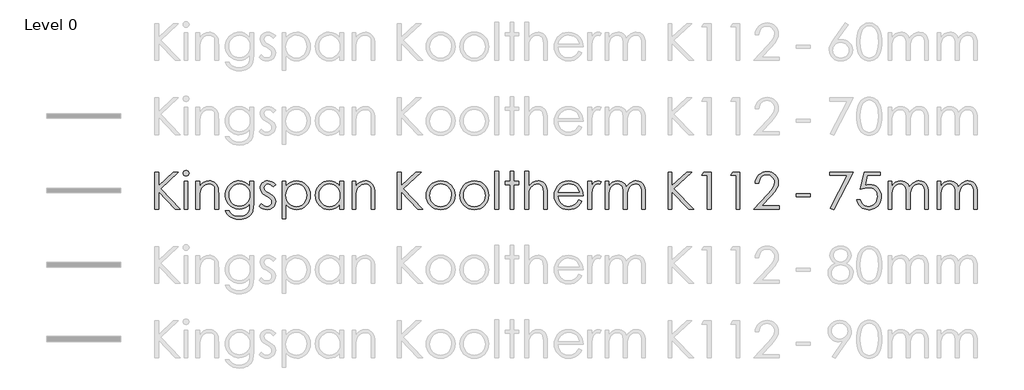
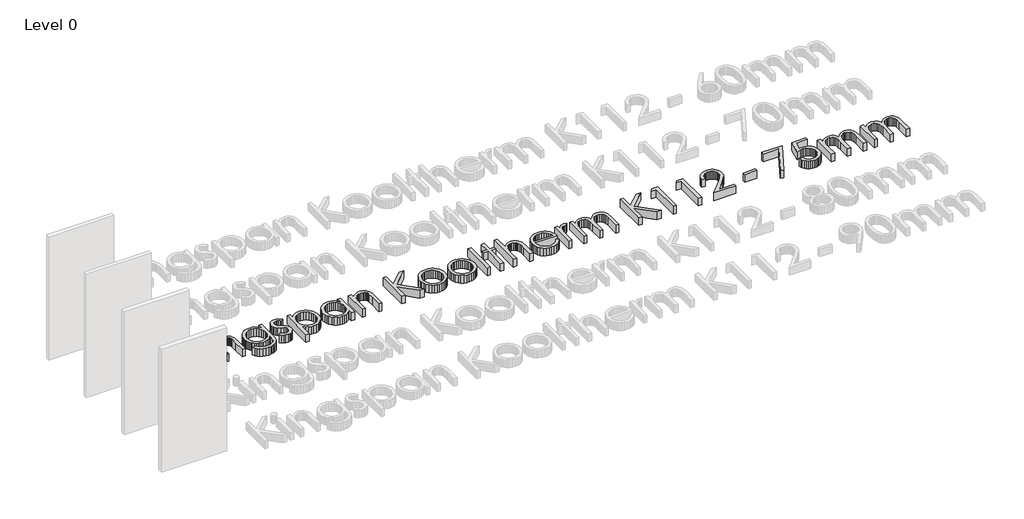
# One storey, part 9 of 14: 1 proxy.
"""IFC4 building model written with IfcOpenShell, lengths in millimetres."""

from ifc_helpers import new_model, si_unit, origin, origin_with_axes, place, context, project, spatial, polyline, outline, extrude, element, save

model = new_model("IFC4")

# Units and contexts
model_context = context("Model", 3, world=origin())
ifc_project = project(units=[si_unit("LENGTHUNIT", "METRE", prefix="MILLI")], contexts=[model_context])

# Site, building, storey
site = spatial("IfcSite", under=ifc_project)
building = spatial("IfcBuilding", under=site)
storey = spatial("IfcBuildingStorey", under=building, Name="Level 0", Elevation=0.0)

# Proxy
placement = place(None, origin())
element("IfcBuildingElementProxy", 1, Name="600mm KI_CenturyGothic", ObjectType="600mm KI_CenturyGothic", at=placement, inside=storey, context=model_context, shape_type="SweptSolid", body=[
    extrude(outline(polyline([(-3852.2663848, -99.1034017), (-3792.944575, -99.1034017), (-3792.944575, -318.316027), (-3555.1938841, -99.1034017), (-3471.6181051, -99.1034017), (-3760.9664119, -366.0515459), (-3441.9572002, -692.3214999), (-3520.8984627, -692.3214999), (-3792.944575, -414.0960325), (-3792.944575, -692.3214999), (-3852.2663848, -692.3214999), (-3852.2663848, -99.1034017)])), origin_with_axes(), (0.0, 0.0, 1.0), 150.0),
    extrude(outline(polyline([(-3348.1854852, -69.4424967), (-3329.145347, -72.7252792), (-3313.1176445, -82.5736265), (-3302.226531, -97.0178693), (-3298.5961598, -114.088338), (-3302.226531, -130.9270809), (-3313.1176445, -145.2940817), (-3329.145347, -155.142429), (-3348.1854852, -158.4252115), (-3366.9938975, -155.142429), (-3382.9443581, -145.2940817), (-3393.8354717, -130.9270809), (-3397.4658428, -114.088338), (-3393.8354717, -97.0178693), (-3382.9443581, -82.5736265), (-3366.9938975, -72.7252792), (-3348.1854852, -69.4424967)])), origin_with_axes(), (0.0, 0.0, 1.0), 150.0),
    extrude(outline(polyline([(-3377.6919062, -247.4079262), (-3318.3700964, -247.4079262), (-3318.3700964, -692.3214999), (-3377.6919062, -692.3214999), (-3377.6919062, -247.4079262)])), origin_with_axes(), (0.0, 0.0, 1.0), 150.0),
    extrude(outline(polyline([(-3189.8395084, -247.4079262), (-3130.5176986, -247.4079262), (-3130.5176986, -326.5036726), (-3096.9946967, -286.9944204), (-3060.0730495, -259.303185), (-3019.7141359, -242.9665147), (-2975.879335, -237.5209579), (-2953.4357238, -239.0995901), (-2932.2955704, -243.8354865), (-2912.4588747, -251.7286472), (-2893.9256368, -262.7790723), (-2877.212412, -276.5039994), (-2862.835756, -292.4206667), (-2841.0921499, -330.8292213), (-2833.6238199, -355.2087086), (-2828.2892984, -385.5551357), (-2824.0216812, -464.1488095), (-2824.0216812, -692.3214999), (-2883.343491, -692.3214999), (-2883.343491, -479.1337458), (-2883.343491, -376.092998), (-2884.7290183, -355.2956057), (-2889.8125035, -337.2403023), (-2898.2849788, -321.9270877), (-2910.1464442, -309.355962), (-2924.7403432, -299.5558909), (-2941.4101193, -292.5558401), (-2980.977303, -286.9557994), (-3005.3471351, -289.1137461), (-3028.4038541, -295.5875862), (-3050.1474602, -306.3773197), (-3070.5779533, -321.4829466), (-3088.6622225, -339.7651482), (-3103.3671568, -360.084606), (-3114.6927562, -382.44132), (-3122.6390208, -406.8352901), (-3128.5480292, -453.9142525), (-3130.5176986, -528.4141035), (-3130.5176986, -692.3214999), (-3189.8395084, -692.3214999), (-3189.8395084, -247.4079262)])), origin_with_axes(), (0.0, 0.0, 1.0), 150.0),
    extrude(outline(polyline([(-2319.7862977, -247.4079262), (-2260.4644879, -247.4079262), (-2260.4644879, -598.395301), (-2264.5196897, -678.6496765), (-2269.588692, -709.4499001), (-2276.6852953, -734.0321474), (-2289.9371156, -762.6454585), (-2307.2924139, -787.7732271), (-2328.7511904, -809.4154531), (-2354.3134448, -827.5721366), (-2383.3226209, -841.9343098), (-2415.122162, -852.1930049), (-2449.7120682, -858.348222), (-2487.0923395, -860.3999611), (-2541.0458345, -856.3833802), (-2589.206184, -844.3336376), (-2630.260275, -825.5059147), (-2662.8949946, -801.1553932), (-2690.2000204, -767.8061856), (-2715.2650299, -721.9824048), (-2655.94322, -721.9824048), (-2642.4355358, -743.151524), (-2627.0933555, -761.3951046), (-2609.9166791, -776.7131468), (-2590.9055067, -789.1056506), (-2569.7894914, -798.6691682), (-2546.2982864, -805.5002523), (-2492.1903075, -810.9651195), (-2438.5071593, -805.6354257), (-2415.083541, -798.9733084), (-2393.93856, -789.6463441), (-2359.6624492, -765.6047903), (-2336.8567664, -736.1176798), (-2329.3884364, -717.4782342), (-2324.0539149, -693.7697863), (-2319.7862977, -631.1458835), (-2319.7862977, -608.4367532), (-2354.757586, -644.2190818), (-2396.6420279, -670.6165148), (-2443.392712, -686.8952536), (-2492.9627269, -692.3214999), (-2522.4063889, -690.4242447), (-2550.9521133, -684.7324793), (-2578.5999001, -675.2462036), (-2605.3497494, -661.9654175), (-2630.1540674, -645.4742634), (-2651.9652601, -626.3568832), (-2670.7833277, -604.6132772), (-2686.6082702, -580.2434451), (-2699.1456025, -553.9280817), (-2708.1008399, -526.3478816), (-2713.4739824, -497.5028447), (-2715.2650299, -467.392971), (-2713.3967404, -437.1044753), (-2707.7918722, -407.8780563), (-2698.4504251, -379.713714), (-2685.3723991, -352.6114483), (-2668.9971079, -327.4257483), (-2649.7638648, -305.0111029), (-2627.67267, -285.367512), (-2602.7235235, -268.4949758), (-2575.9833294, -254.943843), (-2548.5189922, -245.2644624), (-2520.3305117, -239.456834), (-2491.4178881, -237.5209579), (-2444.5320306, -242.4644421), (-2400.8903346, -257.2948945), (-2359.6045177, -283.8661218), (-2319.7862977, -324.0319306), (-2319.7862977, -247.4079262)]), holes=[polyline([(-2484.1571458, -286.9557994), (-2529.0154023, -292.9806707), (-2570.5908765, -311.0552847), (-2606.2187212, -339.7699758), (-2633.2340897, -377.7150788), (-2650.2659375, -421.9940208), (-2655.94322, -469.7102292), (-2653.0080263, -505.6229036), (-2644.2024452, -538.2817613), (-2629.5264766, -567.6868023), (-2608.9801206, -593.8380266), (-2583.7606272, -615.296803), (-2555.0652466, -630.6245004), (-2522.8939786, -639.8211189), (-2487.2468234, -642.8866584), (-2451.3244937, -639.845257), (-2419.1001219, -630.7210528), (-2390.573708, -615.5140459), (-2365.7452519, -594.2242363), (-2345.6382095, -567.9812872), (-2331.2760363, -537.9148621), (-2322.6587323, -504.024961), (-2319.7862977, -466.3115838), (-2325.0773706, -417.6105407), (-2340.9505892, -374.3936754), (-2366.4983608, -338.1672056), (-2400.8130926, -310.4373492), (-2440.9982119, -292.8261869), (-2484.1571458, -286.9557994)])]), origin_with_axes(), (0.0, 0.0, 1.0), 150.0),
    extrude(outline(polyline([(-1904.5336289, -298.6965743), (-1940.9918246, -336.390641), (-1962.9575012, -314.7628978), (-1984.6721416, -299.3145098), (-2006.1357456, -290.045477), (-2027.3483133, -286.9557994), (-2052.181597, -291.6289368), (-2073.2300256, -305.6483489), (-2087.5970264, -325.8857371), (-2092.3860267, -349.212803), (-2088.4466878, -370.7633042), (-2076.628671, -391.2324183), (-2052.0657341, -413.400855), (-2010.2006027, -439.122421), (-1958.3326401, -471.9888664), (-1939.8428507, -487.8138088), (-1926.315856, -503.2332311), (-1909.9791857, -535.9065716), (-1904.5336289, -572.4420092), (-1906.9474396, -598.5884059), (-1914.1888714, -622.6492701), (-1926.2579245, -644.624602), (-1943.1545989, -664.5144015), (-1963.6719892, -681.0055557), (-1986.6031901, -692.7849515), (-2011.9482016, -699.852589), (-2039.7070237, -702.2084682), (-2077.4397114, -698.3270607), (-2113.3958344, -686.6828383), (-2145.4512394, -668.2027042), (-2171.4817731, -643.8135617), (-2135.7959969, -603.3387852), (-2114.0041146, -624.9665283), (-2091.5749863, -640.4149163), (-2068.5086121, -649.6839491), (-2044.8049918, -652.7736267), (-2013.637869, -647.1349651), (-1987.4914724, -630.2189802), (-1969.7644472, -605.6560434), (-1963.8554388, -577.0765256), (-1967.7561567, -553.2860081), (-1979.4583106, -532.2762005), (-2005.0253927, -510.5712154), (-2050.2119275, -483.7682622), (-2099.762632, -453.1032121), (-2117.441381, -437.9444814), (-2130.3890611, -422.9016136), (-2146.3781427, -390.7689666), (-2151.7078365, -354.310771), (-2149.5305794, -330.2643896), (-2142.9988078, -308.3325063), (-2132.1125219, -288.5151211), (-2116.8717217, -270.812234), (-2098.309518, -256.2473007), (-2077.4590218, -245.8437769), (-2054.3202332, -239.6016627), (-2028.8931521, -237.5209579), (-1997.9481, -241.3444339), (-1966.9064954, -252.814862), (-1935.7683384, -271.9322421), (-1904.5336289, -298.6965743)])), origin_with_axes(), (0.0, 0.0, 1.0), 150.0),
    extrude(outline(polyline([(-1795.7769776, -247.4079262), (-1736.4551678, -247.4079262), (-1736.4551678, -328.5119631), (-1700.9238754, -288.2689124), (-1660.4490989, -259.9211205), (-1614.9922173, -243.1209986), (-1564.5146096, -237.5209579), (-1520.0618732, -241.7596094), (-1478.9305402, -254.4755637), (-1441.1206107, -275.668821), (-1406.6320845, -305.3393811), (-1377.9077381, -340.9768811), (-1357.3903478, -380.070958), (-1345.0799137, -422.6216116), (-1340.9764356, -468.628842), (-1345.0412927, -515.5291824), (-1357.235864, -558.7508754), (-1377.5601494, -598.293921), (-1406.014149, -634.1583192), (-1440.2130179, -663.9302594), (-1477.7719111, -685.1959309), (-1518.6908288, -697.9553339), (-1562.9697708, -702.2084682), (-1612.6170277, -696.743601), (-1658.0545988, -680.3489992), (-1699.3211052, -653.1019049), (-1736.4551678, -615.07956), (-1736.4551678, -850.5129928), (-1795.7769776, -850.5129928), (-1795.7769776, -247.4079262)]), holes=[polyline([(-1568.5311905, -286.9557994), (-1602.5852307, -290.2530647), (-1633.8392507, -300.1448607), (-1662.2932503, -316.6311872), (-1687.9472295, -339.7120444), (-1709.1694525, -367.6977647), (-1724.3281832, -398.8986808), (-1733.4234216, -433.3147926), (-1736.4551678, -470.9461002), (-1731.048232, -519.8016272), (-1714.8274246, -563.4819442), (-1688.5265441, -600.3263495), (-1652.8793888, -628.6741414), (-1611.4390881, -646.7487554), (-1567.7587711, -652.7736267), (-1525.0632888, -646.7101344), (-1485.0326535, -628.5196576), (-1450.2544701, -599.4187567), (-1423.3163435, -560.6239924), (-1406.05277, -515.9588407), (-1400.2982454, -469.2467775), (-1405.9948385, -422.3029886), (-1423.0846177, -377.8695627), (-1449.8103289, -339.5189395), (-1484.414718, -310.8235589), (-1524.7157001, -292.9227393), (-1568.5311905, -286.9557994)])]), origin_with_axes(), (0.0, 0.0, 1.0), 150.0),
    extrude(outline(polyline([(-807.0801472, -247.4079262), (-807.0801472, -692.3214999), (-866.401957, -692.3214999), (-866.401957, -616.4699149), (-903.4780882, -654.3184655), (-944.8797679, -681.0441767), (-990.4525125, -696.9173953), (-1040.0418379, -702.2084682), (-1084.3159523, -697.9553339), (-1125.2203871, -685.1959309), (-1162.7551422, -663.9302594), (-1196.9202178, -634.1583192), (-1225.340424, -598.293921), (-1245.6405713, -558.7508754), (-1257.8206597, -515.5291824), (-1261.8806892, -468.628842), (-1257.7820388, -422.6216116), (-1245.4860875, -380.070958), (-1224.9928353, -340.9768811), (-1196.3022822, -305.3393811), (-1161.8475494, -275.668821), (-1124.061758, -254.4755637), (-1082.9449079, -241.7596094), (-1038.4969991, -237.5209579), (-987.7490446, -243.1209986), (-942.0990581, -259.9211205), (-921.2051134, -272.6081091), (-901.6242816, -288.2689124), (-866.401957, -328.5119631), (-866.401957, -247.4079262), (-807.0801472, -247.4079262)]), holes=[polyline([(-1034.3259343, -286.9557994), (-1078.1414247, -292.9227393), (-1118.4424068, -310.8235589), (-1153.0467959, -339.5189395), (-1179.7725071, -377.8695627), (-1196.8622863, -422.3029886), (-1202.5588794, -469.2467775), (-1196.8043548, -515.9588407), (-1179.5407813, -560.6239924), (-1152.6026548, -599.4187567), (-1117.8244713, -628.5196576), (-1077.6779731, -646.7101344), (-1034.6349021, -652.7736267), (-991.0125165, -646.7487554), (-949.7460102, -628.6741414), (-914.2726493, -600.3263495), (-888.0297002, -563.4819442), (-871.8088928, -519.8016272), (-866.401957, -470.9461002), (-869.4337032, -433.3147926), (-878.5289416, -398.8986808), (-893.6876723, -367.6977647), (-914.9098953, -339.7120444), (-940.5638746, -316.6311872), (-969.0178742, -300.1448607), (-1000.2718941, -290.2530647), (-1034.3259343, -286.9557994)])]), origin_with_axes(), (0.0, 0.0, 1.0), 150.0),
    extrude(outline(polyline([(-668.662591, -247.4079262), (-609.3407811, -247.4079262), (-609.3407811, -326.5036726), (-575.8177792, -286.9944204), (-538.896132, -259.303185), (-498.5372184, -242.9665147), (-454.7024175, -237.5209579), (-432.2588064, -239.0995901), (-411.1186529, -243.8354865), (-391.2819572, -251.7286472), (-372.7487193, -262.7790723), (-356.0354946, -276.5039994), (-341.6588385, -292.4206667), (-319.9152324, -330.8292213), (-312.4469024, -355.2087086), (-307.1123809, -385.5551357), (-302.8447637, -464.1488095), (-302.8447637, -692.3214999), (-362.1665735, -692.3214999), (-362.1665735, -479.1337458), (-362.1665735, -376.092998), (-363.5521008, -355.2956057), (-368.635586, -337.2403023), (-377.1080613, -321.9270877), (-388.9695267, -309.355962), (-403.5634257, -299.5558909), (-420.2332018, -292.5558401), (-459.8003855, -286.9557994), (-484.1702176, -289.1137461), (-507.2269366, -295.5875862), (-528.9705427, -306.3773197), (-549.4010358, -321.4829466), (-567.485305, -339.7651482), (-582.1902393, -360.084606), (-593.5158387, -382.44132), (-601.4621033, -406.8352901), (-607.3711117, -453.9142525), (-609.3407811, -528.4141035), (-609.3407811, -692.3214999), (-668.662591, -692.3214999), (-668.662591, -247.4079262)])), origin_with_axes(), (0.0, 0.0, 1.0), 150.0),
    extrude(outline(polyline([(62.9730635, -99.1034017), (122.2948734, -99.1034017), (122.2948734, -318.316027), (360.0455643, -99.1034017), (443.6213432, -99.1034017), (154.2730365, -366.0515459), (473.2822481, -692.3214999), (394.3409856, -692.3214999), (122.2948734, -414.0960325), (122.2948734, -692.3214999), (62.9730635, -692.3214999), (62.9730635, -99.1034017)])), origin_with_axes(), (0.0, 0.0, 1.0), 150.0),
    extrude(outline(polyline([(760.1588128, -237.5209579), (809.4681362, -242.1458191), (854.3553585, -256.0204025), (894.8204798, -279.1447083), (930.8635, -311.5187363), (957.7630055, -346.7507161), (976.9769381, -385.091684), (988.5052976, -426.54164), (992.3480841, -471.1005841), (988.283227, -515.9153921), (976.0886558, -557.8239721), (955.7643703, -596.8263241), (927.3103707, -632.9224481), (892.4742558, -663.2350819), (853.0036246, -684.8869632), (808.8984769, -697.8780919), (760.1588128, -702.2084682), (711.2839754, -697.8780919), (667.0822753, -684.8869632), (627.5537126, -663.2350819), (592.6982872, -632.9224481), (564.2442876, -596.8263241), (543.9200022, -557.8239721), (531.7254309, -515.9153921), (527.6605738, -471.1005841), (531.5033603, -426.7347449), (543.0317198, -385.4006518), (562.2456524, -347.0983049), (589.145158, -311.8277041), (625.2074886, -279.3185026), (665.7305413, -256.0976445), (710.7143161, -242.1651295), (760.1588128, -237.5209579)]), holes=[polyline([(760.004329, -286.9557994), (725.7282181, -290.3303067), (693.9624704, -300.4538284), (664.7070856, -317.3263647), (637.962064, -340.9479154), (615.6584538, -369.3584664), (599.7273037, -400.5980035), (590.1686137, -434.6665266), (586.9823836, -471.5640357), (592.7948396, -519.2995546), (610.2322075, -563.6364281), (637.5758543, -601.4270471), (673.1071466, -629.5238028), (714.6439998, -646.9611707), (760.004329, -652.7736267), (805.3646581, -646.9611707), (846.9015113, -629.5238028), (882.4328037, -601.4270471), (909.7764504, -563.6364281), (927.2138183, -519.2995546), (933.0262743, -471.5640357), (929.8255614, -434.6665266), (920.2234227, -400.5980035), (904.2198583, -369.3584664), (881.8148681, -340.9479154), (854.9974321, -317.3263647), (825.7565303, -300.4538284), (794.0921625, -290.3303067), (760.004329, -286.9557994)])]), origin_with_axes(), (0.0, 0.0, 1.0), 150.0),
    extrude(outline(polyline([(1303.9420695, -237.5209579), (1353.2513929, -242.1458191), (1398.1386152, -256.0204025), (1438.6037365, -279.1447083), (1474.6467567, -311.5187363), (1501.5462622, -346.7507161), (1520.7601948, -385.091684), (1532.2885543, -426.54164), (1536.1313408, -471.1005841), (1532.0664837, -515.9153921), (1519.8719125, -557.8239721), (1499.547627, -596.8263241), (1471.0936274, -632.9224481), (1436.2575126, -663.2350819), (1396.7868813, -684.8869632), (1352.6817336, -697.8780919), (1303.9420695, -702.2084682), (1255.0672321, -697.8780919), (1210.865532, -684.8869632), (1171.3369693, -663.2350819), (1136.4815439, -632.9224481), (1108.0275443, -596.8263241), (1087.7032589, -557.8239721), (1075.5086876, -515.9153921), (1071.4438305, -471.1005841), (1075.286617, -426.7347449), (1086.8149766, -385.4006518), (1106.0289091, -347.0983049), (1132.9284147, -311.8277041), (1168.9907453, -279.3185026), (1209.5137981, -256.0976445), (1254.4975728, -242.1651295), (1303.9420695, -237.5209579)]), holes=[polyline([(1303.7875857, -286.9557994), (1269.5114748, -290.3303067), (1237.7457271, -300.4538284), (1208.4903423, -317.3263647), (1181.7453207, -340.9479154), (1159.4417105, -369.3584664), (1143.5105604, -400.5980035), (1133.9518704, -434.6665266), (1130.7656404, -471.5640357), (1136.5780963, -519.2995546), (1154.0154643, -563.6364281), (1181.359111, -601.4270471), (1216.8904033, -629.5238028), (1258.4272565, -646.9611707), (1303.7875857, -652.7736267), (1349.1479149, -646.9611707), (1390.684768, -629.5238028), (1426.2160604, -601.4270471), (1453.5597071, -563.6364281), (1470.997075, -519.2995546), (1476.809531, -471.5640357), (1473.6088181, -434.6665266), (1464.0066795, -400.5980035), (1448.003115, -369.3584664), (1425.5981249, -340.9479154), (1398.7806889, -317.3263647), (1369.539787, -300.4538284), (1337.8754193, -290.3303067), (1303.7875857, -286.9557994)])]), origin_with_axes(), (0.0, 0.0, 1.0), 150.0),
    extrude(outline(polyline([(1635.0010238, -79.3294651), (1694.3228337, -79.3294651), (1694.3228337, -692.3214999), (1635.0010238, -692.3214999), (1635.0010238, -79.3294651)])), origin_with_axes(), (0.0, 0.0, 1.0), 150.0),
    extrude(outline(polyline([(1882.1752314, -79.3294651), (1941.4970413, -79.3294651), (1941.4970413, -247.4079262), (2020.5927877, -247.4079262), (2020.5927877, -296.8427677), (1941.4970413, -296.8427677), (1941.4970413, -692.3214999), (1882.1752314, -692.3214999), (1882.1752314, -296.8427677), (1803.079485, -296.8427677), (1803.079485, -247.4079262), (1882.1752314, -247.4079262), (1882.1752314, -79.3294651)])), origin_with_axes(), (0.0, 0.0, 1.0), 150.0),
    extrude(outline(polyline([(2119.4624707, -79.3294651), (2178.7842806, -79.3294651), (2178.7842806, -328.0485114), (2212.5583188, -288.3461544), (2249.6151394, -260.0756044), (2289.9161216, -243.1596195), (2333.4226442, -237.5209579), (2355.8662553, -239.0995901), (2377.0064088, -243.8354865), (2396.8431044, -251.7286472), (2415.3763424, -262.7790723), (2432.0895671, -276.4895166), (2446.4662232, -292.3627352), (2468.2098293, -330.5974955), (2475.6781593, -354.9045684), (2481.0126808, -385.2654784), (2485.280298, -464.1488095), (2485.280298, -692.3214999), (2425.9584882, -692.3214999), (2425.9584882, -479.1337458), (2424.5681332, -414.752589), (2420.3970685, -376.092998), (2406.879729, -337.2403023), (2397.1665551, -321.9270877), (2385.4837117, -309.355962), (2371.840854, -299.5558909), (2356.2476374, -292.5558401), (2319.2101273, -286.9557994), (2296.3416854, -289.1137461), (2274.6994594, -295.5875862), (2254.2834492, -306.3773197), (2235.0936547, -321.4829466), (2218.1052556, -339.7651482), (2204.2934312, -360.084606), (2193.6581816, -382.44132), (2186.1995068, -406.8352901), (2180.6380871, -453.6825267), (2178.7842806, -528.4141035), (2178.7842806, -692.3214999), (2119.4624707, -692.3214999), (2119.4624707, -79.3294651)])), origin_with_axes(), (0.0, 0.0, 1.0), 150.0),
    extrude(outline(polyline([(2991.0605203, -544.0169753), (3038.950523, -569.1978477), (3013.3255094, -611.0822896), (2984.0315038, -644.0452875), (2950.952643, -669.1296074), (2913.9730643, -687.3780157), (2872.4941426, -698.5008551), (2825.9172528, -702.2084682), (2774.4258447, -697.7767119), (2728.8627554, -684.481443), (2689.227985, -662.3226615), (2655.5215335, -631.3003674), (2628.6220279, -594.6973431), (2609.4080954, -555.7963712), (2597.8797358, -514.5974515), (2594.0369493, -471.1005841), (2597.3197318, -430.2202874), (2607.1680791, -391.618628), (2623.5819913, -355.2956057), (2646.5614684, -321.2512207), (2682.7493173, -284.6192308), (2724.5758277, -258.4535236), (2772.0409998, -242.7540993), (2825.1448334, -237.5209579), (2879.7935059, -242.8892727), (2928.6490329, -258.9942172), (2971.7114143, -285.8357913), (3008.9806503, -323.4139951), (3030.4539096, -355.585263), (3045.9022976, -391.541386), (3055.3258143, -431.2823641), (3058.7244596, -474.8081972), (2653.3587591, -474.8081972), (2657.095338, -512.0629503), (2666.6057518, -545.8128504), (2681.8900007, -576.0578975), (2702.9480845, -602.7980916), (2728.3124066, -624.6623882), (2756.5153699, -640.2797429), (2787.5569744, -649.6501557), (2821.4372203, -652.7736267), (2854.9602222, -649.761191), (2887.5563208, -640.7238841), (2917.2944677, -626.6851615), (2942.2436143, -608.668479), (2965.725164, -582.5027719), (2991.0605203, -544.0169753)]), holes=[polyline([(2999.4026498, -425.3733557), (2984.9777175, -382.8516678), (2965.1844704, -349.8307385), (2939.0766947, -324.3022774), (2905.7081767, -304.257994), (2867.7630738, -291.2813481), (2827.9255433, -286.9557994), (2795.503239, -289.6689226), (2765.4368139, -297.808292), (2737.726268, -311.3739077), (2712.3716012, -330.3657696), (2695.8321708, -348.179692), (2681.4362043, -369.9522638), (2669.1837016, -395.683485), (2659.0746627, -425.3733557), (2999.4026498, -425.3733557)])]), origin_with_axes(), (0.0, 0.0, 1.0), 150.0),
    extrude(outline(polyline([(3137.820206, -247.4079262), (3197.1420159, -247.4079262), (3197.1420159, -311.8277041), (3222.6897875, -278.7874643), (3249.589293, -255.6728138), (3277.7632906, -242.0589219), (3307.1345382, -237.5209579), (3330.4616041, -241.305813), (3355.3335087, -252.6603781), (3325.8270877, -294.6799934), (3297.2475699, -286.9557994), (3270.8308265, -292.9034288), (3245.3409863, -310.7463169), (3223.2884125, -341.1023993), (3207.183468, -384.5896114), (3199.6523789, -442.7141712), (3197.1420159, -540.1548783), (3197.1420159, -692.3214999), (3137.820206, -692.3214999), (3137.820206, -247.4079262)])), origin_with_axes(), (0.0, 0.0, 1.0), 150.0),
    extrude(outline(polyline([(3414.6553185, -247.4079262), (3473.9771284, -247.4079262), (3473.9771284, -323.5684789), (3503.5607913, -287.0716623), (3533.9168737, -261.9294109), (3577.3268439, -243.6230712), (3622.8995884, -237.5209579), (3653.7384329, -240.668567), (3682.9165757, -250.1113941), (3708.6767627, -264.7873627), (3729.2617397, -283.634396), (3746.0425511, -309.0663047), (3760.3902414, -343.4968994), (3775.16759, -319.0981017), (3791.6925376, -297.808292), (3809.965084, -279.6274704), (3829.9852293, -264.5556369), (3851.2798666, -252.7279648), (3873.375889, -244.2796277), (3896.2732965, -239.2106253), (3919.9720892, -237.5209579), (3962.3006723, -243.3334139), (3981.4952943, -250.5989839), (3999.3768034, -260.7707818), (4015.4914031, -273.53984), (4029.385297, -288.5971907), (4050.5109676, -325.5767694), (4057.8103309, -348.9521114), (4063.0241619, -377.5219739), (4067.1952266, -450.2452603), (4067.1952266, -692.3214999), (4007.8734168, -692.3214999), (4007.8734168, -446.6921311), (4005.4209852, -385.5744462), (3998.0636904, -347.1272706), (3984.7587663, -322.6608861), (3964.4634466, -303.4855746), (3938.3942919, -291.0882432), (3907.7678627, -286.9557994), (3888.1194443, -288.5054659), (3869.3399976, -293.1544651), (3834.3880198, -311.7504621), (3805.6540182, -340.6968791), (3785.8800816, -377.9468046), (3779.1889985, -402.1042213), (3774.4096535, -433.1747916), (3770.5861775, -516.0553931), (3770.5861775, -692.3214999), (3711.2643677, -692.3214999), (3711.2643677, -461.9860352), (3708.850557, -393.530366), (3701.6091252, -351.2983353), (3688.3621325, -325.0553863), (3667.9316394, -304.5669617), (3641.6114484, -291.35859), (3610.6953619, -286.9557994), (3573.7544042, -292.9999812), (3539.2465676, -311.1325266), (3510.2808401, -339.499629), (3489.9662099, -376.2474819), (3477.9743988, -428.0768236), (3473.9771284, -501.6883923), (3473.9771284, -692.3214999), (3414.6553185, -692.3214999), (3414.6553185, -247.4079262)])), origin_with_axes(), (0.0, 0.0, 1.0), 150.0),
    extrude(outline(polyline([(4433.0130538, -99.1034017), (4492.3348637, -99.1034017), (4492.3348637, -318.316027), (4730.0855546, -99.1034017), (4813.6613335, -99.1034017), (4524.3130268, -366.0515459), (4843.3222385, -692.3214999), (4764.3809759, -692.3214999), (4492.3348637, -414.0960325), (4492.3348637, -692.3214999), (4433.0130538, -692.3214999), (4433.0130538, -99.1034017)])), origin_with_axes(), (0.0, 0.0, 1.0), 150.0),
    extrude(outline(polyline([(5010.6282802, -99.1034017), (5125.1008351, -99.1034017), (5125.1008351, -692.3214999), (5065.7790253, -692.3214999), (5065.7790253, -148.5382432), (4976.7963106, -148.5382432), (5010.6282802, -99.1034017)])), origin_with_axes(), (0.0, 0.0, 1.0), 150.0),
    extrude(outline(polyline([(5475.3157905, -99.1034017), (5589.7883454, -99.1034017), (5589.7883454, -692.3214999), (5530.4665356, -692.3214999), (5530.4665356, -148.5382432), (5441.4838208, -148.5382432), (5475.3157905, -99.1034017)])), origin_with_axes(), (0.0, 0.0, 1.0), 150.0),
    extrude(outline(polyline([(5896.2843628, -277.0688311), (5836.962553, -277.0688311), (5841.4474131, -237.8106152), (5852.5847353, -202.2213914), (5870.3745196, -170.3011597), (5894.816766, -142.0499202), (5924.2121517, -118.9352697), (5956.8613542, -102.4248051), (5992.7643733, -92.5185263), (6031.9212092, -89.2164334), (6070.3925229, -92.5136987), (6105.0113948, -102.4054946), (6135.777825, -118.8918211), (6162.6918135, -141.9726783), (6184.5561101, -169.533568), (6200.1734648, -199.459992), (6209.5438776, -231.7519505), (6212.6673485, -266.4094434), (6206.5845458, -315.2070389), (6188.3361375, -360.8763359), (6152.5538088, -412.763609), (6093.869245, -480.215133), (5941.084688, -642.8866584), (6222.5543169, -642.8866584), (6222.5543169, -692.3214999), (5817.1886164, -692.3214999), (6043.1985325, -451.6356152), (6099.9327373, -386.1151397), (6132.6446988, -340.0210121), (6148.1703288, -302.6552237), (6153.3455387, -263.3197658), (6151.0958672, -238.7133804), (6144.3468527, -215.8739043), (6133.0984952, -194.8013375), (6117.3507947, -175.4956802), (6098.3396223, -159.3762529), (6077.3008489, -147.8623762), (6054.2344746, -140.9540502), (6029.1404994, -138.6512749), (6002.8058255, -140.9250845), (5978.7980651, -147.7465133), (5957.1172181, -159.1155613), (5937.7632845, -175.0322286), (5921.5279943, -195.0523738), (5909.2030773, -218.731856), (5900.7885334, -246.0706751), (5896.2843628, -277.0688311)])), origin_with_axes(), (0.0, 0.0, 1.0), 150.0),
    extrude(outline(polyline([(6499.3894294, -445.1472923), (6726.7897004, -445.1472923), (6726.7897004, -494.5821338), (6499.3894294, -494.5821338), (6499.3894294, -445.1472923)])), origin_with_axes(), (0.0, 0.0, 1.0), 150.0),
    extrude(outline(polyline([(7043.1726861, -99.1034017), (7418.8774816, -99.1034017), (7102.4944959, -702.2084682), (7048.5796219, -679.8083056), (7327.2685409, -148.5382432), (7043.1726861, -148.5382432), (7043.1726861, -99.1034017)])), origin_with_axes(), (0.0, 0.0, 1.0), 150.0),
    extrude(outline(polyline([(7853.904087, -99.1034017), (7853.904087, -148.5382432), (7646.5867204, -148.5382432), (7612.1368152, -309.5104459), (7649.7150189, -300.0096873), (7683.3538838, -296.8427677), (7722.9403779, -300.2655512), (7758.8965009, -310.5339016), (7791.2222528, -327.6478189), (7819.9176335, -351.6073031), (7843.4378041, -380.9157917), (7860.2379261, -414.076722), (7870.3179992, -451.090094), (7873.6780236, -491.9559079), (7871.9545628, -520.9216353), (7866.7841805, -548.6514917), (7858.1668766, -575.1454771), (7846.1026511, -600.4035914), (7831.0984042, -623.6051391), (7813.6610363, -643.9294246), (7793.7905473, -661.3764477), (7771.4869371, -675.9462086), (7747.054346, -687.4359472), (7720.7969141, -695.6429033), (7692.7146413, -700.567077), (7662.8075277, -702.2084682), (7627.4741679, -699.4518965), (7595.008415, -691.1821813), (7565.4102692, -677.3993226), (7538.6797304, -658.1033205), (7515.9271515, -634.4334936), (7498.2628853, -607.5291604), (7485.686932, -577.390321), (7478.1992914, -544.0169753), (7537.5211013, -544.0169753), (7547.0991018, -576.7482474), (7561.6205865, -602.6436077), (7581.4524546, -622.9582379), (7606.9616052, -638.9473194), (7635.9852641, -649.3170499), (7666.360657, -652.7736267), (7695.6498351, -649.8480882), (7722.8052045, -641.0714728), (7747.8267654, -626.4437804), (7770.7145178, -605.9650111), (7789.8077598, -581.0931065), (7803.4457898, -553.2860081), (7811.6286078, -522.543716), (7814.3562138, -488.8662303), (7811.8941269, -458.6791146), (7804.5078664, -431.4561585), (7792.1974323, -407.1973617), (7774.9628244, -385.9027244), (7753.6054281, -368.5667365), (7728.9266283, -356.183888), (7700.9264251, -348.754179), (7669.6048185, -346.2776093), (7640.8997825, -348.1314158), (7609.3174844, -353.6928355), (7537.5211013, -375.9385142), (7596.8429111, -99.1034017), (7853.904087, -99.1034017)])), origin_with_axes(), (0.0, 0.0, 1.0), 150.0),
    extrude(outline(polyline([(7982.4346749, -247.4079262), (8041.7564848, -247.4079262), (8041.7564848, -323.5684789), (8071.3401477, -287.0716623), (8101.6962301, -261.9294109), (8145.1062003, -243.6230712), (8190.6789448, -237.5209579), (8221.5177893, -240.668567), (8250.6959321, -250.1113941), (8276.4561191, -264.7873627), (8297.0410961, -283.634396), (8313.8219075, -309.0663047), (8328.1695978, -343.4968994), (8342.9469464, -319.0981017), (8359.471894, -297.808292), (8377.7444404, -279.6274704), (8397.7645856, -264.5556369), (8419.0592229, -252.7279648), (8441.1552454, -244.2796277), (8464.0526529, -239.2106253), (8487.7514456, -237.5209579), (8530.0800287, -243.3334139), (8549.2746507, -250.5989839), (8567.1561598, -260.7707818), (8583.2707595, -273.53984), (8597.1646534, -288.5971907), (8618.290324, -325.5767694), (8625.5896873, -348.9521114), (8630.8035182, -377.5219739), (8634.974583, -450.2452603), (8634.974583, -692.3214999), (8575.6527732, -692.3214999), (8575.6527732, -446.6921311), (8573.2003416, -385.5744462), (8565.8430468, -347.1272706), (8552.5381227, -322.6608861), (8532.242803, -303.4855746), (8506.1736483, -291.0882432), (8475.5472191, -286.9557994), (8455.8988006, -288.5054659), (8437.119354, -293.1544651), (8402.1673762, -311.7504621), (8373.4333746, -340.6968791), (8353.659438, -377.9468046), (8346.9683549, -402.1042213), (8342.1890099, -433.1747916), (8338.3655339, -516.0553931), (8338.3655339, -692.3214999), (8279.0437241, -692.3214999), (8279.0437241, -461.9860352), (8276.6299134, -393.530366), (8269.3884816, -351.2983353), (8256.1414889, -325.0553863), (8235.7109958, -304.5669617), (8209.3908048, -291.35859), (8178.4747183, -286.9557994), (8141.5337606, -292.9999812), (8107.025924, -311.1325266), (8078.0601965, -339.499629), (8057.7455663, -376.2474819), (8045.7537552, -428.0768236), (8041.7564848, -501.6883923), (8041.7564848, -692.3214999), (7982.4346749, -692.3214999), (7982.4346749, -247.4079262)])), origin_with_axes(), (0.0, 0.0, 1.0), 150.0),
    extrude(outline(polyline([(8773.3921393, -247.4079262), (8832.7139491, -247.4079262), (8832.7139491, -323.5684789), (8862.2976121, -287.0716623), (8892.6536944, -261.9294109), (8936.0636646, -243.6230712), (8981.6364092, -237.5209579), (9012.4752537, -240.668567), (9041.6533964, -250.1113941), (9067.4135834, -264.7873627), (9087.9985604, -283.634396), (9104.7793718, -309.0663047), (9119.1270621, -343.4968994), (9133.9044108, -319.0981017), (9150.4293583, -297.808292), (9168.7019047, -279.6274704), (9188.72205, -264.5556369), (9210.0166873, -252.7279648), (9232.1127097, -244.2796277), (9255.0101172, -239.2106253), (9278.7089099, -237.5209579), (9321.037493, -243.3334139), (9340.232115, -250.5989839), (9358.1136241, -260.7707818), (9374.2282238, -273.53984), (9388.1221177, -288.5971907), (9409.2477883, -325.5767694), (9416.5471516, -348.9521114), (9421.7609826, -377.5219739), (9425.9320473, -450.2452603), (9425.9320473, -692.3214999), (9366.6102375, -692.3214999), (9366.6102375, -446.6921311), (9364.1578059, -385.5744462), (9356.8005111, -347.1272706), (9343.495587, -322.6608861), (9323.2002673, -303.4855746), (9297.1311126, -291.0882432), (9266.5046834, -286.9557994), (9246.856265, -288.5054659), (9228.0768183, -293.1544651), (9193.1248405, -311.7504621), (9164.3908389, -340.6968791), (9144.6169023, -377.9468046), (9137.9258192, -402.1042213), (9133.1464742, -433.1747916), (9129.3229982, -516.0553931), (9129.3229982, -692.3214999), (9070.0011884, -692.3214999), (9070.0011884, -461.9860352), (9067.5873778, -393.530366), (9060.3459459, -351.2983353), (9047.0989532, -325.0553863), (9026.6684601, -304.5669617), (9000.3482691, -291.35859), (8969.4321827, -286.9557994), (8932.4912249, -292.9999812), (8897.9833883, -311.1325266), (8869.0176608, -339.499629), (8848.7030306, -376.2474819), (8836.7112195, -428.0768236), (8832.7139491, -501.6883923), (8832.7139491, -692.3214999), (8773.3921393, -692.3214999), (8773.3921393, -247.4079262)])), origin_with_axes(), (0.0, 0.0, 1.0), 150.0),
])

save(model, "model.ifc")
